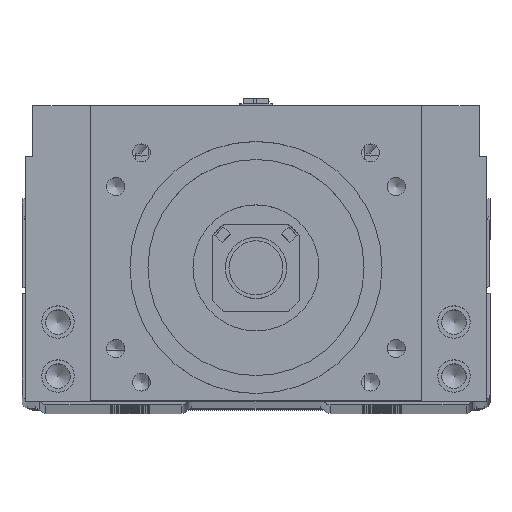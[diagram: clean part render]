
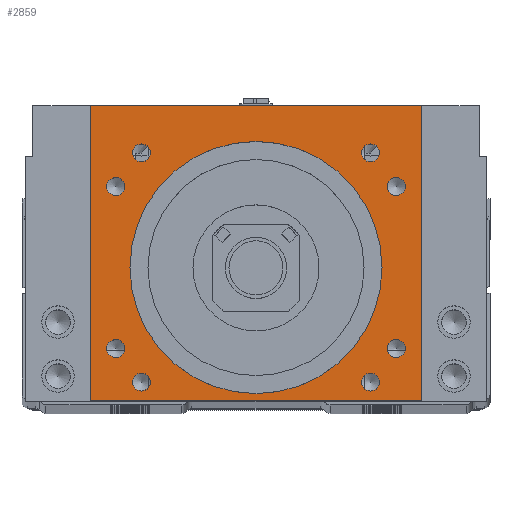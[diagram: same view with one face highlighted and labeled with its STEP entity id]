
A CAD part, top view. The second image highlights one B-rep face of the part: STEP entity #2859.
In plain terms, the highlighted planar face has unit normal (0, 0, 1).
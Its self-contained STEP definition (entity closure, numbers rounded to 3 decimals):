
#1916=FACE_BOUND('',#5139,.T.);
#1917=FACE_BOUND('',#5140,.T.);
#1918=FACE_BOUND('',#5141,.T.);
#1919=FACE_BOUND('',#5142,.T.);
#1920=FACE_BOUND('',#5143,.T.);
#1921=FACE_BOUND('',#5144,.T.);
#1922=FACE_BOUND('',#5145,.T.);
#1923=FACE_BOUND('',#5146,.T.);
#1924=FACE_BOUND('',#5147,.T.);
#1925=FACE_BOUND('',#5148,.T.);
#2859=ADVANCED_FACE('',(#1916,#1917,#1918,#1919,#1920,#1921,#1922,#1923,
#1924,#1925),#3756,.T.);
#3756=PLANE('',#17777);
#5139=EDGE_LOOP('',(#8091,#8092,#8093,#8094));
#5140=EDGE_LOOP('',(#8095));
#5141=EDGE_LOOP('',(#8096));
#5142=EDGE_LOOP('',(#8097));
#5143=EDGE_LOOP('',(#8098));
#5144=EDGE_LOOP('',(#8099));
#5145=EDGE_LOOP('',(#8100));
#5146=EDGE_LOOP('',(#8101));
#5147=EDGE_LOOP('',(#8102));
#5148=EDGE_LOOP('',(#8103));
#6380=CIRCLE('',#17767,35.015);
#6381=CIRCLE('',#17769,2.5);
#6382=CIRCLE('',#17770,2.5);
#6383=CIRCLE('',#17771,2.5);
#6384=CIRCLE('',#17772,2.5);
#6385=CIRCLE('',#17773,2.5);
#6386=CIRCLE('',#17774,2.5);
#6387=CIRCLE('',#17775,2.5);
#6388=CIRCLE('',#17776,2.5);
#8091=ORIENTED_EDGE('',*,*,#13243,.T.);
#8092=ORIENTED_EDGE('',*,*,#13231,.T.);
#8093=ORIENTED_EDGE('',*,*,#13238,.T.);
#8094=ORIENTED_EDGE('',*,*,#13248,.T.);
#8095=ORIENTED_EDGE('',*,*,#13256,.F.);
#8096=ORIENTED_EDGE('',*,*,#13257,.T.);
#8097=ORIENTED_EDGE('',*,*,#13258,.T.);
#8098=ORIENTED_EDGE('',*,*,#13259,.F.);
#8099=ORIENTED_EDGE('',*,*,#13255,.F.);
#8100=ORIENTED_EDGE('',*,*,#13260,.T.);
#8101=ORIENTED_EDGE('',*,*,#13261,.T.);
#8102=ORIENTED_EDGE('',*,*,#13262,.T.);
#8103=ORIENTED_EDGE('',*,*,#13263,.T.);
#11481=VERTEX_POINT('',#25130);
#11482=VERTEX_POINT('',#25132);
#11486=VERTEX_POINT('',#25143);
#11488=VERTEX_POINT('',#25154);
#11494=VERTEX_POINT('',#25178);
#11495=VERTEX_POINT('',#25181);
#11496=VERTEX_POINT('',#25183);
#11497=VERTEX_POINT('',#25185);
#11498=VERTEX_POINT('',#25187);
#11499=VERTEX_POINT('',#25189);
#11500=VERTEX_POINT('',#25191);
#11501=VERTEX_POINT('',#25193);
#11502=VERTEX_POINT('',#25195);
#13231=EDGE_CURVE('',#11482,#11481,#15077,.T.);
#13238=EDGE_CURVE('',#11481,#11486,#15082,.T.);
#13243=EDGE_CURVE('',#11488,#11482,#15087,.T.);
#13248=EDGE_CURVE('',#11486,#11488,#15092,.T.);
#13255=EDGE_CURVE('',#11494,#11494,#6380,.T.);
#13256=EDGE_CURVE('',#11495,#11495,#6381,.T.);
#13257=EDGE_CURVE('',#11496,#11496,#6382,.T.);
#13258=EDGE_CURVE('',#11497,#11497,#6383,.T.);
#13259=EDGE_CURVE('',#11498,#11498,#6384,.T.);
#13260=EDGE_CURVE('',#11499,#11499,#6385,.T.);
#13261=EDGE_CURVE('',#11500,#11500,#6386,.T.);
#13262=EDGE_CURVE('',#11501,#11501,#6387,.T.);
#13263=EDGE_CURVE('',#11502,#11502,#6388,.T.);
#15077=LINE('',#25131,#16379);
#15082=LINE('',#25145,#16384);
#15087=LINE('',#25153,#16389);
#15092=LINE('',#25162,#16394);
#16379=VECTOR('',#20227,1.);
#16384=VECTOR('',#20238,1.);
#16389=VECTOR('',#20249,1.);
#16394=VECTOR('',#20256,1.);
#17767=AXIS2_PLACEMENT_3D('',#25177,#20275,#20276);
#17769=AXIS2_PLACEMENT_3D('',#25180,#20279,#20280);
#17770=AXIS2_PLACEMENT_3D('',#25182,#20281,#20282);
#17771=AXIS2_PLACEMENT_3D('',#25184,#20283,#20284);
#17772=AXIS2_PLACEMENT_3D('',#25186,#20285,#20286);
#17773=AXIS2_PLACEMENT_3D('',#25188,#20287,#20288);
#17774=AXIS2_PLACEMENT_3D('',#25190,#20289,#20290);
#17775=AXIS2_PLACEMENT_3D('',#25192,#20291,#20292);
#17776=AXIS2_PLACEMENT_3D('',#25194,#20293,#20294);
#17777=AXIS2_PLACEMENT_3D('',#25196,#20295,#20296);
#20227=DIRECTION('',(-1.,0.,0.));
#20238=DIRECTION('',(0.,-1.,0.));
#20249=DIRECTION('',(0.,1.,0.));
#20256=DIRECTION('',(1.,0.,0.));
#20275=DIRECTION('',(0.,0.,1.));
#20276=DIRECTION('',(1.,0.,0.));
#20279=DIRECTION('',(0.,0.,1.));
#20280=DIRECTION('',(-1.,0.,0.));
#20281=DIRECTION('',(0.,0.,-1.));
#20282=DIRECTION('',(1.,0.,0.));
#20283=DIRECTION('',(0.,0.,-1.));
#20284=DIRECTION('',(1.,0.,0.));
#20285=DIRECTION('',(0.,0.,1.));
#20286=DIRECTION('',(-1.,0.,0.));
#20287=DIRECTION('',(0.,0.,-1.));
#20288=DIRECTION('',(1.,0.,0.));
#20289=DIRECTION('',(0.,0.,-1.));
#20290=DIRECTION('',(1.,0.,0.));
#20291=DIRECTION('',(0.,0.,-1.));
#20292=DIRECTION('',(1.,0.,0.));
#20293=DIRECTION('',(0.,0.,-1.));
#20294=DIRECTION('',(1.,0.,0.));
#20295=DIRECTION('',(0.,0.,1.));
#20296=DIRECTION('',(1.,0.,0.));
#25130=CARTESIAN_POINT('',(-46.,83.,100.));
#25131=CARTESIAN_POINT('',(0.,83.,100.));
#25132=CARTESIAN_POINT('',(46.,83.,100.));
#25143=CARTESIAN_POINT('',(-46.,1.,100.));
#25145=CARTESIAN_POINT('',(-46.,38.,100.));
#25153=CARTESIAN_POINT('',(46.,38.,100.));
#25154=CARTESIAN_POINT('',(46.,1.,100.));
#25162=CARTESIAN_POINT('',(0.,1.,100.));
#25177=CARTESIAN_POINT('',(0.,38.,100.));
#25178=CARTESIAN_POINT('',(35.015,38.,100.));
#25180=CARTESIAN_POINT('',(-38.971,15.5,100.));
#25181=CARTESIAN_POINT('',(-41.471,15.5,100.));
#25182=CARTESIAN_POINT('',(38.971,60.5,100.));
#25183=CARTESIAN_POINT('',(41.471,60.5,100.));
#25184=CARTESIAN_POINT('',(38.971,15.5,100.));
#25185=CARTESIAN_POINT('',(41.471,15.5,100.));
#25186=CARTESIAN_POINT('',(-38.971,60.5,100.));
#25187=CARTESIAN_POINT('',(-41.471,60.5,100.));
#25188=CARTESIAN_POINT('',(-31.82,69.82,100.));
#25189=CARTESIAN_POINT('',(-29.32,69.82,100.));
#25190=CARTESIAN_POINT('',(-31.82,6.18,100.));
#25191=CARTESIAN_POINT('',(-29.32,6.18,100.));
#25192=CARTESIAN_POINT('',(31.82,6.18,100.));
#25193=CARTESIAN_POINT('',(34.32,6.18,100.));
#25194=CARTESIAN_POINT('',(31.82,69.82,100.));
#25195=CARTESIAN_POINT('',(34.32,69.82,100.));
#25196=CARTESIAN_POINT('',(0.,38.,100.));
